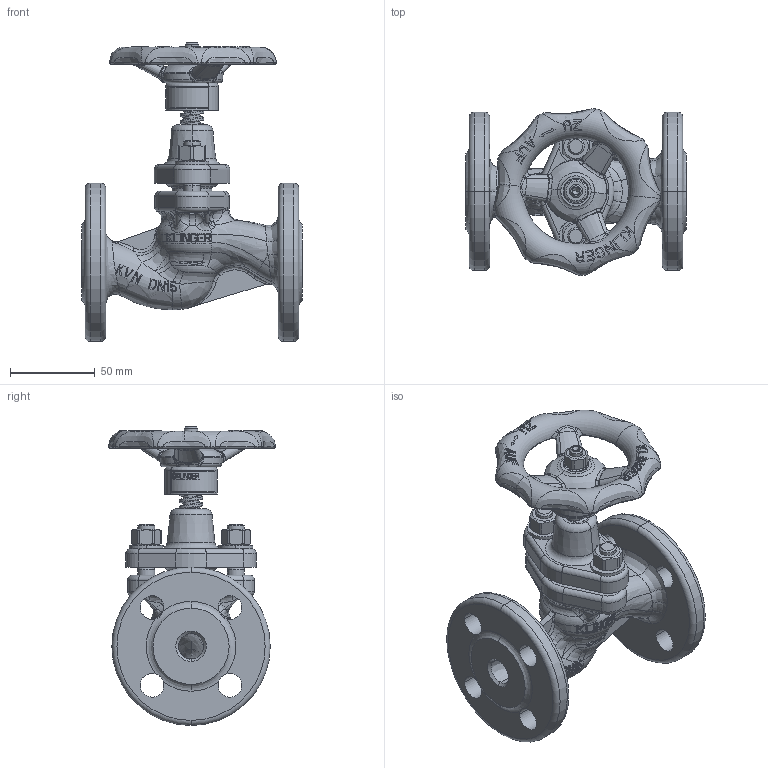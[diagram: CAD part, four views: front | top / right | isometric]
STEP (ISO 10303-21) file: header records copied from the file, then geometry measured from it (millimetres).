
FILE_DESCRIPTION((''),'2;1');
FILE_NAME('KVNFL015S-----P016DGG_SW0001','2014-09-22T',('schwaba'),('RAND'),'PRO/ENGINEER BY PARAMETRIC TECHNOLOGY CORPORATION, 2013410','PRO/ENGINEER BY PARAMETRIC TECHNOLOGY CORPORATION, 2013410','');
FILE_SCHEMA(('CONFIG_CONTROL_DESIGN'));
Products named in the file (1): KVNFL015S-----P016DGG_SW0001
Bounding box: 130 x 98.65 x 176.55 mm (x, y, z)
Volume: 357109 mm3; surface area: 105814.7 mm2
Topology: 3 solids, 9 shells, 2482 faces, 6696 edges, 4248 vertices
Faces by surface type: plane 1389, bspline 521, cylinder 291, torus 181, cone 85, sphere 8, extrusion 7
Entity records: 139517 total; most frequent: CARTESIAN_POINT 83581, ORIENTED_EDGE 13362, DIRECTION 9109, EDGE_CURVE 6681, VERTEX_POINT 4248, AXIS2_PLACEMENT_3D 3212, B_SPLINE_CURVE_WITH_KNOTS 2752, VECTOR 2685
